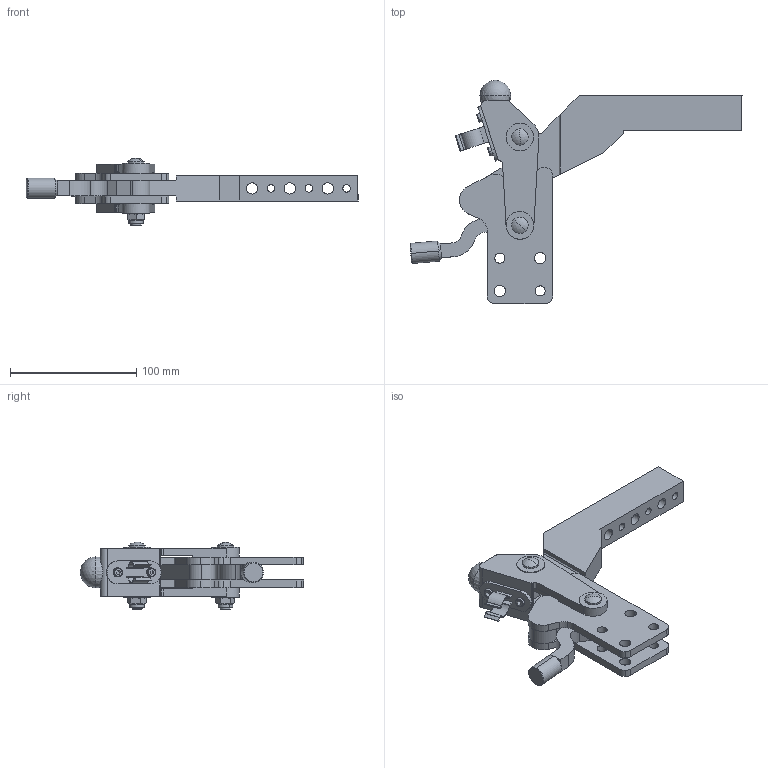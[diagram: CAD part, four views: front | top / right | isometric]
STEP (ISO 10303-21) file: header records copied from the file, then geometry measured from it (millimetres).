
FILE_DESCRIPTION((''),'2;1');
FILE_NAME('C:\Documents and Settings\clare\My Documents\STPS\M20-01-127-RM2.stp','2009-11-29T21:49:51',('clare'),(''),'Autodesk Inventor 8','Autodesk Inventor 8','');
FILE_SCHEMA(('AUTOMOTIVE_DESIGN { 1 0 10303 214 1 1 1 1 }'));
Length unit declared in the file: millimetre
Products named in the file (6): M20-01-127-RM2; M20-01-127-RM21; M20-01-127-RM22; M20-01-127-RM23; M20-01-127-RM24; M20-01-127-RM25
Assembly tree (5 placements, depth 2):
  M20-01-127-RM2
    M20-01-127-RM21
    M20-01-127-RM22
    M20-01-127-RM23
    M20-01-127-RM24
    M20-01-127-RM25
Bounding box: 263.16 x 176.91 x 53.77 mm (x, y, z)
Volume: 287009.5 mm3; surface area: 92229.2 mm2
Topology: 5 solids, 10 shells, 456 faces, 1176 edges, 756 vertices
Faces by surface type: plane 230, cylinder 131, bspline 61, cone 24, sphere 6, torus 4
Entity records: 14941 total; most frequent: CARTESIAN_POINT 3499, DIRECTION 2436, ORIENTED_EDGE 2338, EDGE_CURVE 1169, AXIS2_PLACEMENT_3D 887, VERTEX_POINT 755, VECTOR 662, LINE 662
